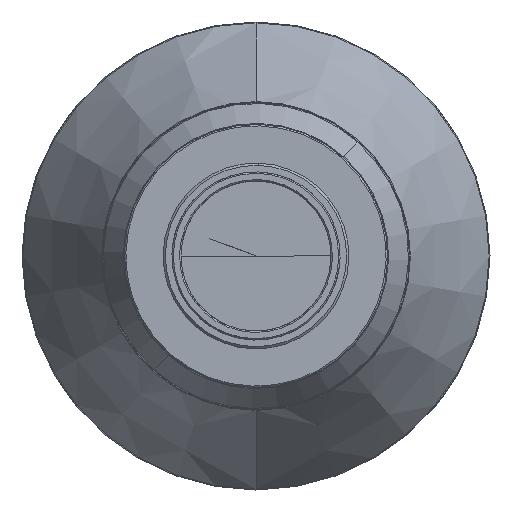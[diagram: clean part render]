
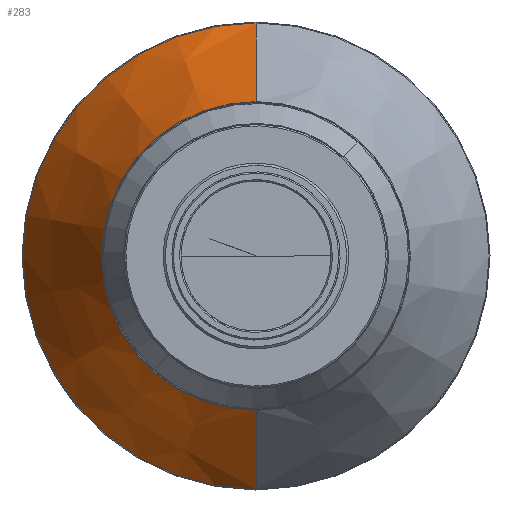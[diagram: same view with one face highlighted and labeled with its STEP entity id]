
A CAD part, left-side view. The second image highlights one B-rep face of the part: STEP entity #283.
In plain terms, the highlighted conical face has half-angle 28 degrees and reference radius 21.117 mm.
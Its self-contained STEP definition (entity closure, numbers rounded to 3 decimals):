
#61 = CARTESIAN_POINT ( 'NONE',  ( 42.092, 0., 21.117 ) ) ;
#157 = ORIENTED_EDGE ( 'NONE', *, *, #363, .T. ) ;
#233 = VERTEX_POINT ( 'NONE', #394 ) ;
#251 = DIRECTION ( 'NONE',  ( 0.883, 0., 0.469 ) ) ;
#281 = VERTEX_POINT ( 'NONE', #1804 ) ;
#283 = ADVANCED_FACE ( 'NONE', ( #2106 ), #1969, .T. ) ;
#363 = EDGE_CURVE ( 'NONE', #281, #1531, #700, .T. ) ;
#394 = CARTESIAN_POINT ( 'NONE',  ( 42.092, 0., -21.117 ) ) ;
#466 = DIRECTION ( 'NONE',  ( 1., 0., 0. ) ) ;
#568 = CIRCLE ( 'NONE', #1538, 31.883 ) ;
#700 = LINE ( 'NONE', #61, #1810 ) ;
#788 = ORIENTED_EDGE ( 'NONE', *, *, #1190, .F. ) ;
#811 = DIRECTION ( 'NONE',  ( -1., 0., 0. ) ) ;
#963 = EDGE_CURVE ( 'NONE', #281, #233, #2243, .T. ) ;
#991 = ORIENTED_EDGE ( 'NONE', *, *, #963, .F. ) ;
#992 = DIRECTION ( 'NONE',  ( 0., 0., -1. ) ) ;
#1190 = EDGE_CURVE ( 'NONE', #233, #1516, #1483, .T. ) ;
#1211 = EDGE_LOOP ( 'NONE', ( #991, #157, #1989, #788 ) ) ;
#1397 = AXIS2_PLACEMENT_3D ( 'NONE', #1827, #811, #992 ) ;
#1483 = LINE ( 'NONE', #2181, #1554 ) ;
#1495 = CARTESIAN_POINT ( 'NONE',  ( 62.34, 0., 0. ) ) ;
#1516 = VERTEX_POINT ( 'NONE', #2185 ) ;
#1531 = VERTEX_POINT ( 'NONE', #2313 ) ;
#1538 = AXIS2_PLACEMENT_3D ( 'NONE', #1495, #466, #1911 ) ;
#1554 = VECTOR ( 'NONE', #2551, 1000. ) ;
#1778 = CARTESIAN_POINT ( 'NONE',  ( 42.092, 0., 0. ) ) ;
#1804 = CARTESIAN_POINT ( 'NONE',  ( 42.092, 0., 21.117 ) ) ;
#1810 = VECTOR ( 'NONE', #251, 1000. ) ;
#1827 = CARTESIAN_POINT ( 'NONE',  ( 42.092, 0., 0. ) ) ;
#1911 = DIRECTION ( 'NONE',  ( 0., 0., -1. ) ) ;
#1969 = CONICAL_SURFACE ( 'NONE', #1975, 21.117, 0.489 ) ;
#1975 = AXIS2_PLACEMENT_3D ( 'NONE', #1778, #2022, #2451 ) ;
#1989 = ORIENTED_EDGE ( 'NONE', *, *, #2578, .F. ) ;
#2022 = DIRECTION ( 'NONE',  ( 1., 0., 0. ) ) ;
#2106 = FACE_OUTER_BOUND ( 'NONE', #1211, .T. ) ;
#2181 = CARTESIAN_POINT ( 'NONE',  ( 42.092, 0., -21.117 ) ) ;
#2185 = CARTESIAN_POINT ( 'NONE',  ( 62.34, 0., -31.883 ) ) ;
#2243 = CIRCLE ( 'NONE', #1397, 21.117 ) ;
#2313 = CARTESIAN_POINT ( 'NONE',  ( 62.34, 0., 31.883 ) ) ;
#2451 = DIRECTION ( 'NONE',  ( 0., 0., -1. ) ) ;
#2551 = DIRECTION ( 'NONE',  ( 0.883, 0., -0.469 ) ) ;
#2578 = EDGE_CURVE ( 'NONE', #1516, #1531, #568, .T. ) ;
